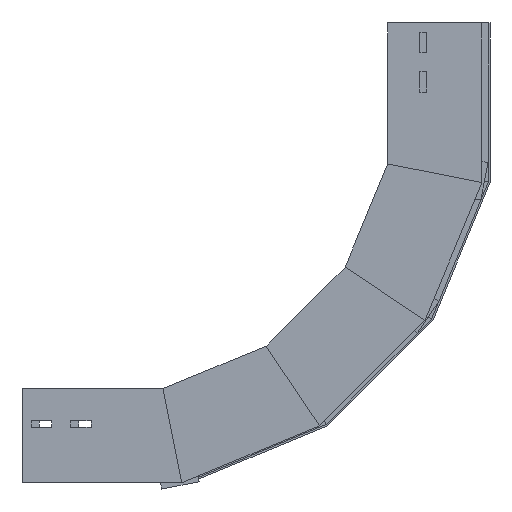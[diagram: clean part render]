
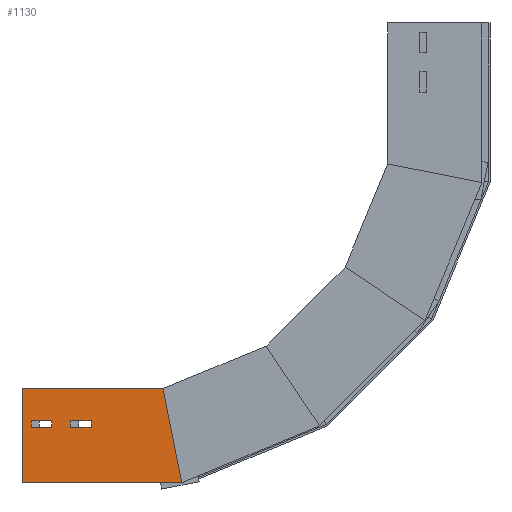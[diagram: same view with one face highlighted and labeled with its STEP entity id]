
A CAD part, left-side view. The second image highlights one B-rep face of the part: STEP entity #1130.
In plain terms, the highlighted planar face has unit normal (-1, 0, 0) as drawn and (1, 0, 0) by its records, which use the part's own axes.
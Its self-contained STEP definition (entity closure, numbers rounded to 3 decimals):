
#10 = DIRECTION ( 'NONE',  ( 0., -0.981, -0.195 ) ) ;
#11 = FACE_BOUND ( 'NONE', #824, .T. ) ;
#15 = CARTESIAN_POINT ( 'NONE',  ( 0., 0., -169.6 ) ) ;
#24 = EDGE_LOOP ( 'NONE', ( #288, #1604, #26, #1305 ) ) ;
#25 = CARTESIAN_POINT ( 'NONE',  ( 0., 100., 0. ) ) ;
#26 = ORIENTED_EDGE ( 'NONE', *, *, #877, .T. ) ;
#47 = VECTOR ( 'NONE', #10, 1000. ) ;
#63 = VECTOR ( 'NONE', #548, 1000. ) ;
#70 = EDGE_CURVE ( 'NONE', #839, #730, #819, .T. ) ;
#95 = LINE ( 'NONE', #1415, #63 ) ;
#119 = VECTOR ( 'NONE', #800, 1000. ) ;
#128 = ORIENTED_EDGE ( 'NONE', *, *, #1409, .T. ) ;
#134 = ORIENTED_EDGE ( 'NONE', *, *, #498, .T. ) ;
#143 = EDGE_CURVE ( 'NONE', #1547, #319, #934, .T. ) ;
#148 = DIRECTION ( 'NONE',  ( 0., 0., 1. ) ) ;
#154 = ORIENTED_EDGE ( 'NONE', *, *, #1630, .F. ) ;
#259 = CARTESIAN_POINT ( 'NONE',  ( 0., 59., -31.835 ) ) ;
#284 = CARTESIAN_POINT ( 'NONE',  ( 0., 0., 0. ) ) ;
#288 = ORIENTED_EDGE ( 'NONE', *, *, #1074, .T. ) ;
#319 = VERTEX_POINT ( 'NONE', #1731 ) ;
#333 = VECTOR ( 'NONE', #1382, 1000. ) ;
#356 = CARTESIAN_POINT ( 'NONE',  ( 0., 0., 0. ) ) ;
#358 = VERTEX_POINT ( 'NONE', #928 ) ;
#361 = LINE ( 'NONE', #655, #1276 ) ;
#399 = VECTOR ( 'NONE', #1679, 1000. ) ;
#440 = CARTESIAN_POINT ( 'NONE',  ( 0., 32.452, -163.145 ) ) ;
#455 = LINE ( 'NONE', #1571, #1775 ) ;
#498 = EDGE_CURVE ( 'NONE', #1405, #685, #361, .T. ) ;
#528 = CARTESIAN_POINT ( 'NONE',  ( 0., 66., -9.835 ) ) ;
#548 = DIRECTION ( 'NONE',  ( 0., 0., 1. ) ) ;
#553 = VECTOR ( 'NONE', #1255, 1000. ) ;
#554 = EDGE_CURVE ( 'NONE', #358, #1307, #672, .T. ) ;
#588 = CARTESIAN_POINT ( 'NONE',  ( 0., 66., -51.505 ) ) ;
#606 = ORIENTED_EDGE ( 'NONE', *, *, #1022, .T. ) ;
#644 = EDGE_CURVE ( 'NONE', #1405, #839, #455, .T. ) ;
#655 = CARTESIAN_POINT ( 'NONE',  ( 0., 0., 0. ) ) ;
#661 = VERTEX_POINT ( 'NONE', #1141 ) ;
#669 = VERTEX_POINT ( 'NONE', #588 ) ;
#672 = LINE ( 'NONE', #828, #119 ) ;
#683 = DIRECTION ( 'NONE',  ( 0., 0., -1. ) ) ;
#685 = VERTEX_POINT ( 'NONE', #15 ) ;
#686 = LINE ( 'NONE', #528, #553 ) ;
#707 = ORIENTED_EDGE ( 'NONE', *, *, #1031, .T. ) ;
#723 = DIRECTION ( 'NONE',  ( -1., 0., 0. ) ) ;
#730 = VERTEX_POINT ( 'NONE', #1873 ) ;
#744 = VERTEX_POINT ( 'NONE', #1128 ) ;
#778 = CARTESIAN_POINT ( 'NONE',  ( 0., 66., -73.505 ) ) ;
#794 = AXIS2_PLACEMENT_3D ( 'NONE', #284, #723, #148 ) ;
#800 = DIRECTION ( 'NONE',  ( 0., 0., -1. ) ) ;
#812 = CARTESIAN_POINT ( 'NONE',  ( 0., 66., -73.505 ) ) ;
#819 = LINE ( 'NONE', #1233, #1781 ) ;
#822 = LINE ( 'NONE', #833, #869 ) ;
#824 = EDGE_LOOP ( 'NONE', ( #128, #1065, #707, #606 ) ) ;
#828 = CARTESIAN_POINT ( 'NONE',  ( 0., 66., -9.835 ) ) ;
#833 = CARTESIAN_POINT ( 'NONE',  ( 0., 66., -51.505 ) ) ;
#839 = VERTEX_POINT ( 'NONE', #25 ) ;
#869 = VECTOR ( 'NONE', #1408, 1000. ) ;
#877 = EDGE_CURVE ( 'NONE', #1307, #1547, #1346, .T. ) ;
#928 = CARTESIAN_POINT ( 'NONE',  ( 0., 66., -9.835 ) ) ;
#934 = LINE ( 'NONE', #1817, #1468 ) ;
#940 = CARTESIAN_POINT ( 'NONE',  ( 0., 66., -51.505 ) ) ;
#1006 = ORIENTED_EDGE ( 'NONE', *, *, #644, .F. ) ;
#1022 = EDGE_CURVE ( 'NONE', #661, #744, #95, .T. ) ;
#1031 = EDGE_CURVE ( 'NONE', #1364, #661, #1685, .T. ) ;
#1065 = ORIENTED_EDGE ( 'NONE', *, *, #1566, .T. ) ;
#1074 = EDGE_CURVE ( 'NONE', #319, #358, #686, .T. ) ;
#1128 = CARTESIAN_POINT ( 'NONE',  ( 0., 59., -51.505 ) ) ;
#1130 = ADVANCED_FACE ( 'NONE', ( #11, #1451, #1743 ), #1302, .F. ) ;
#1141 = CARTESIAN_POINT ( 'NONE',  ( 0., 59., -73.505 ) ) ;
#1147 = EDGE_LOOP ( 'NONE', ( #1330, #1006, #134, #154 ) ) ;
#1178 = CARTESIAN_POINT ( 'NONE',  ( 0., 66., -31.835 ) ) ;
#1183 = LINE ( 'NONE', #440, #47 ) ;
#1233 = CARTESIAN_POINT ( 'NONE',  ( 0., 100., 0. ) ) ;
#1255 = DIRECTION ( 'NONE',  ( 0., 1., 0. ) ) ;
#1276 = VECTOR ( 'NONE', #683, 1000. ) ;
#1302 = PLANE ( 'NONE',  #794 ) ;
#1305 = ORIENTED_EDGE ( 'NONE', *, *, #143, .T. ) ;
#1307 = VERTEX_POINT ( 'NONE', #1569 ) ;
#1330 = ORIENTED_EDGE ( 'NONE', *, *, #70, .F. ) ;
#1346 = LINE ( 'NONE', #1178, #1353 ) ;
#1353 = VECTOR ( 'NONE', #1766, 1000. ) ;
#1364 = VERTEX_POINT ( 'NONE', #778 ) ;
#1372 = LINE ( 'NONE', #940, #333 ) ;
#1382 = DIRECTION ( 'NONE',  ( 0., 1., 0. ) ) ;
#1405 = VERTEX_POINT ( 'NONE', #356 ) ;
#1408 = DIRECTION ( 'NONE',  ( 0., 0., -1. ) ) ;
#1409 = EDGE_CURVE ( 'NONE', #744, #669, #1372, .T. ) ;
#1415 = CARTESIAN_POINT ( 'NONE',  ( 0., 59., -51.505 ) ) ;
#1433 = DIRECTION ( 'NONE',  ( 0., 1., 0. ) ) ;
#1451 = FACE_OUTER_BOUND ( 'NONE', #1147, .T. ) ;
#1468 = VECTOR ( 'NONE', #1536, 1000. ) ;
#1536 = DIRECTION ( 'NONE',  ( 0., 0., 1. ) ) ;
#1547 = VERTEX_POINT ( 'NONE', #259 ) ;
#1566 = EDGE_CURVE ( 'NONE', #669, #1364, #822, .T. ) ;
#1569 = CARTESIAN_POINT ( 'NONE',  ( 0., 66., -31.835 ) ) ;
#1571 = CARTESIAN_POINT ( 'NONE',  ( 0., 0., 0. ) ) ;
#1604 = ORIENTED_EDGE ( 'NONE', *, *, #554, .T. ) ;
#1630 = EDGE_CURVE ( 'NONE', #730, #685, #1183, .T. ) ;
#1679 = DIRECTION ( 'NONE',  ( 0., -1., 0. ) ) ;
#1685 = LINE ( 'NONE', #812, #399 ) ;
#1731 = CARTESIAN_POINT ( 'NONE',  ( 0., 59., -9.835 ) ) ;
#1743 = FACE_BOUND ( 'NONE', #24, .T. ) ;
#1766 = DIRECTION ( 'NONE',  ( 0., -1., 0. ) ) ;
#1775 = VECTOR ( 'NONE', #1433, 1000. ) ;
#1781 = VECTOR ( 'NONE', #1837, 1000. ) ;
#1817 = CARTESIAN_POINT ( 'NONE',  ( 0., 59., -9.835 ) ) ;
#1837 = DIRECTION ( 'NONE',  ( 0., 0., -1. ) ) ;
#1873 = CARTESIAN_POINT ( 'NONE',  ( 0., 100., -149.709 ) ) ;
